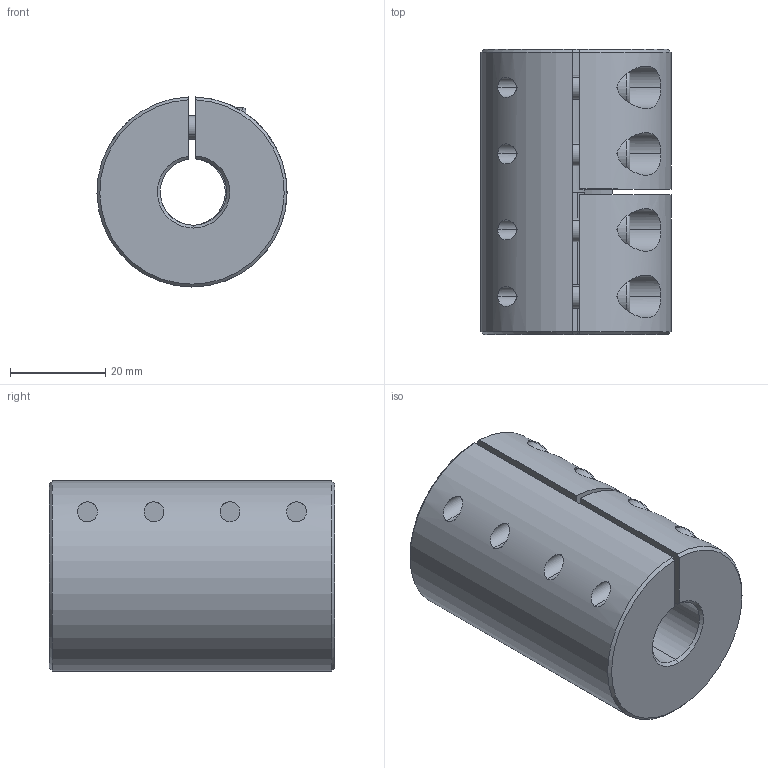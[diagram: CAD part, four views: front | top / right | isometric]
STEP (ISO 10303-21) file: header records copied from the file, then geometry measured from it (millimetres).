
FILE_DESCRIPTION (( 'STEP AP214' ), '1' );
FILE_NAME ('LL-B-D40L60-14-14½¨Ä£.STEP', '2022-07-22T01:00:40', ( '' ), ( '' ), 'SwSTEP 2.0', 'SolidWorks 2022', '' );
FILE_SCHEMA (( 'AUTOMOTIVE_DESIGN' ));
Length unit declared in the file: millimetre
Products named in the file (1): LL-B-D40L60-14-14膘耀
Bounding box: 40 x 60 x 39.99 mm (x, y, z)
Volume: 62935.3 mm3; surface area: 17160.9 mm2
Topology: 1 solids, 1 shells, 177 faces, 446 edges, 279 vertices
Faces by surface type: plane 85, cylinder 70, cone 14, torus 8
Entity records: 5827 total; most frequent: CARTESIAN_POINT 1479, DIRECTION 947, ORIENTED_EDGE 876, EDGE_CURVE 438, AXIS2_PLACEMENT_3D 371, VERTEX_POINT 279, EDGE_LOOP 209, VECTOR 205
